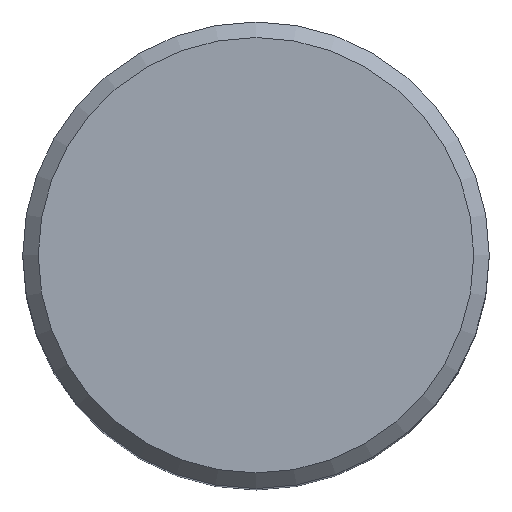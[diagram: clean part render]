
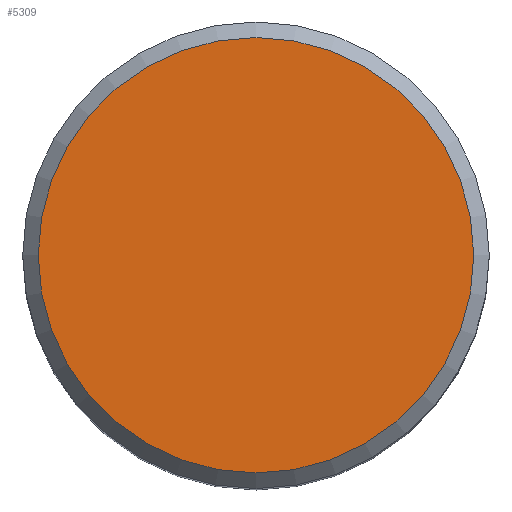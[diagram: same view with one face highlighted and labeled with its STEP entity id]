
A CAD part, top view. The second image highlights one B-rep face of the part: STEP entity #5309.
In plain terms, the highlighted planar face has unit normal (0, 0, 1).
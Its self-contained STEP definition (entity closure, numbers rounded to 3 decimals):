
#138=PLANE('',#5738);
#586=FACE_OUTER_BOUND('',#897,.T.);
#897=EDGE_LOOP('',(#3986));
#1206=CIRCLE('',#5737,28.);
#2227=VERTEX_POINT('',#8311);
#2874=EDGE_CURVE('',#2227,#2227,#1206,.T.);
#3986=ORIENTED_EDGE('',*,*,#2874,.F.);
#5309=ADVANCED_FACE('',(#586),#138,.F.);
#5737=AXIS2_PLACEMENT_3D('',#8313,#6625,#6626);
#5738=AXIS2_PLACEMENT_3D('',#8314,#6627,#6628);
#6625=DIRECTION('center_axis',(0.,0.,
-1.));
#6626=DIRECTION('ref_axis',(0.94,0.342,0.));
#6627=DIRECTION('center_axis',(0.,0.,
-1.));
#6628=DIRECTION('ref_axis',(-0.94,-0.342,0.));
#8311=CARTESIAN_POINT('',(-26.311,-9.577,108.5));
#8313=CARTESIAN_POINT('Origin',(0.,0.,108.5));
#8314=CARTESIAN_POINT('Origin',(10.403,3.787,108.5));
